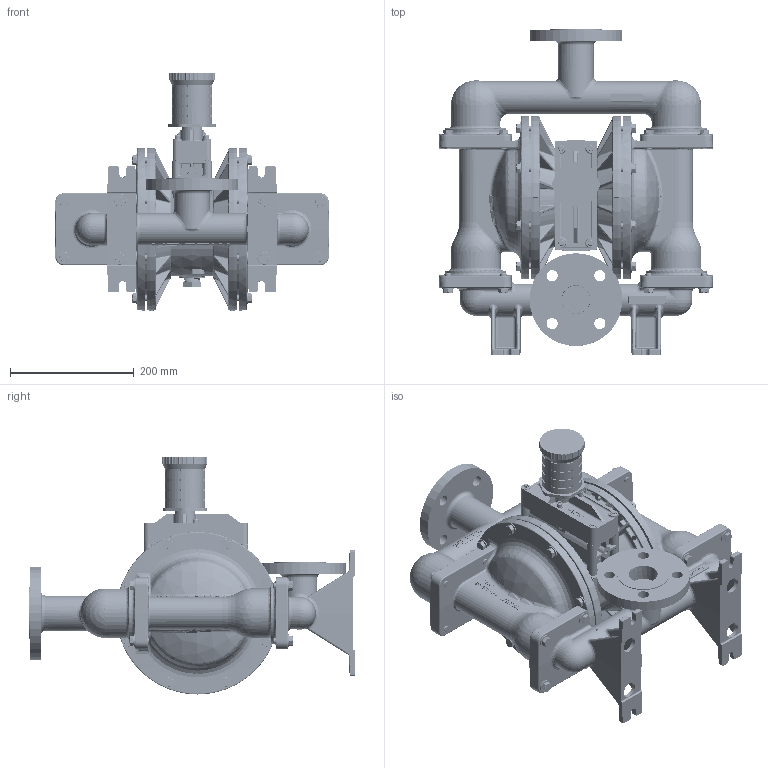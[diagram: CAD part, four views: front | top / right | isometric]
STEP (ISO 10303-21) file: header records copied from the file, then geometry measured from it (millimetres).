
FILE_DESCRIPTION (( 'STEP AP203' ), '1' );
FILE_NAME ('P430_Metal_Top_DIN.STEP', '2022-07-05T07:25:58', ( '' ), ( '' ), 'SwSTEP 2.0', 'SolidWorks 2019', '' );
FILE_SCHEMA (( 'CONFIG_CONTROL_DESIGN' ));
Products named in the file (1): P430_Metal_Top_DIN
Bounding box: 443.47 x 526.29 x 384.43 mm (x, y, z)
Volume: 14119441.4 mm3; surface area: 1099830.1 mm2
Topology: 1 solids, 1 shells, 9526 faces, 23891 edges, 14636 vertices
Faces by surface type: plane 4219, bspline 2166, cylinder 1294, cone 772, torus 750, sphere 325
Entity records: 534424 total; most frequent: CARTESIAN_POINT 325357, ORIENTED_EDGE 47698, DIRECTION 37817, EDGE_CURVE 23849, VERTEX_POINT 14623, AXIS2_PLACEMENT_3D 13363, LINE 11091, VECTOR 11091
